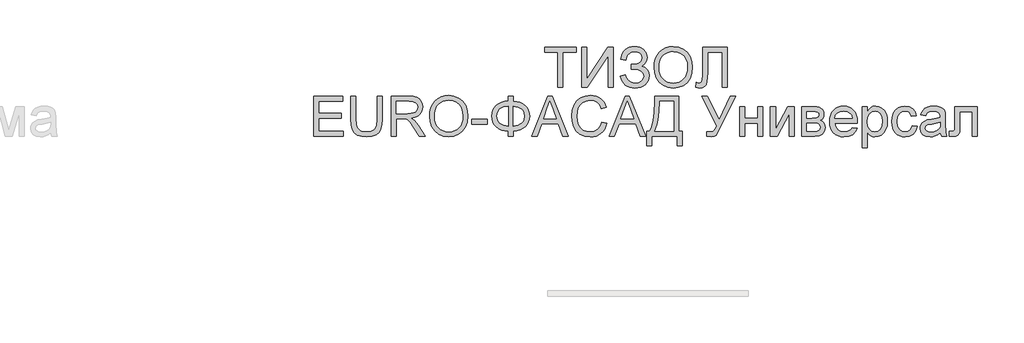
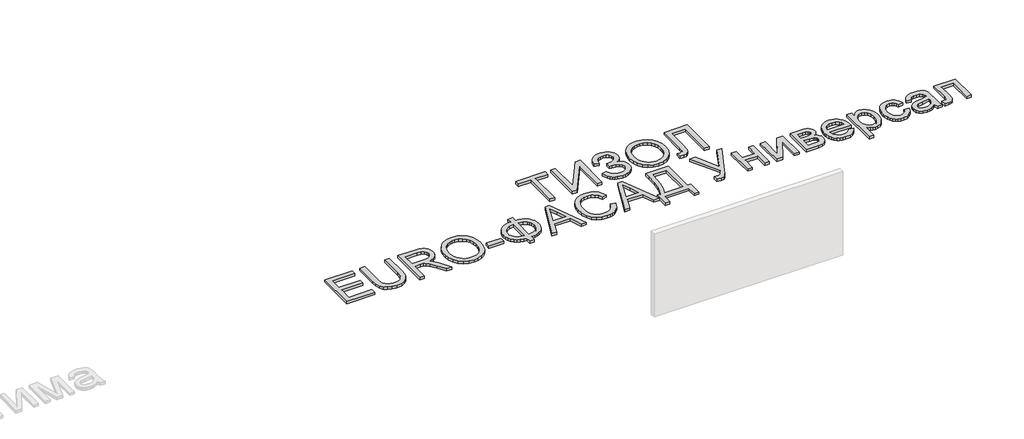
# One storey, part 35 of 35: 1 proxy.
"""IFC4 building model written with IfcOpenShell, lengths in millimetres."""

from ifc_helpers import new_model, si_unit, origin, origin_with_axes, place, context, project, spatial, polyline, outline, extrude, element, save

model = new_model("IFC4")

# Units and contexts
model_context = context("Model", 3, world=origin())
ifc_project = project(units=[si_unit("LENGTHUNIT", "METRE", prefix="MILLI")], contexts=[model_context])

# Site, building, storey
site = spatial("IfcSite", under=ifc_project)
building = spatial("IfcBuilding", under=site)
storey = spatial("IfcBuildingStorey", under=building, Name="Этаж 01", Elevation=0.0)

# Proxy
placement = place(None, origin())
element("IfcBuildingElementProxy", 1, Name="600 мм Arial", ObjectType="600 мм Arial", at=placement, inside=storey, context=model_context, shape_type="SweptSolid", body=[
    extrude(outline(polyline([(84112.8246338, 5315.0742808), (84112.8246338, 5578.7720949), (84013.9379535, 5578.7720949), (84013.9379535, 5616.4432112), (84249.3824304, 5616.4432112), (84249.3824304, 5578.7720949), (84150.4957501, 5578.7720949), (84150.4957501, 5315.0742808), (84112.8246338, 5315.0742808)])), origin_with_axes(), (0.0, 0.0, 1.0), 20.0),
    extrude(outline(polyline([(84291.7624363, 5616.4432112), (84329.4335526, 5616.4432112), (84329.4335526, 5377.7613727), (84487.1813521, 5616.4432112), (84527.2069132, 5616.4432112), (84527.2069132, 5315.0742808), (84489.5357969, 5315.0742808), (84489.5357969, 5553.0939316), (84332.1558793, 5315.0742808), (84291.7624363, 5315.0742808), (84291.7624363, 5616.4432112)])), origin_with_axes(), (0.0, 0.0, 1.0), 20.0),
    extrude(outline(polyline([(84579.0046981, 5399.8342925), (84616.6758144, 5409.2520715), (84624.6312626, 5388.8622119), (84639.8155919, 5368.4539583), (84661.6769795, 5353.1408702), (84689.6636023, 5348.0365075), (84718.018107, 5351.8716773), (84739.6587654, 5363.3771867), (84753.3715668, 5380.3089556), (84757.9425006, 5400.4229036), (84752.9485025, 5421.4933449), (84737.9665082, 5437.7629262), (84714.3760753, 5448.1647896), (84683.5567611, 5451.6320774), (84663.7647098, 5451.6320774), (84663.7647098, 5489.3031937), (84706.402233, 5492.3566142), (84720.2989754, 5497.7828737), (84732.4850665, 5507.9548108), (84740.9831406, 5521.3549125), (84743.8158319, 5536.4656655), (84740.0450415, 5554.2067747), (84728.7326701, 5569.4646804), (84710.9823639, 5579.9769084), (84687.8977687, 5583.4809844), (84667.0296625, 5580.7862488), (84649.4541002, 5572.702042), (84635.9896192, 5560.166463), (84627.4547569, 5544.117611), (84621.384704, 5517.5565309), (84583.7135876, 5526.97431), (84595.4168336, 5568.1770934), (84604.8311638, 5584.3639012), (84616.6206321, 5597.6076531), (84630.7852386, 5607.9083489), (84647.3249831, 5615.2659888), (84666.2398658, 5619.6805728), (84687.5298867, 5621.1521008), (84708.0416072, 5619.6230912), (84726.313846, 5615.0360626), (84742.3466032, 5607.3910149), (84756.1398788, 5596.6879481), (84767.2292217, 5583.9385377), (84775.1501809, 5570.1544592), (84779.9027564, 5555.3357126), (84781.4869483, 5539.4822978), (84779.0221389, 5519.6580568), (84771.6277108, 5502.1974576), (84759.3036639, 5487.1005002), (84742.0499984, 5474.3671847), (84763.000878, 5464.7194794), (84780.2361495, 5448.431504), (84791.76925, 5426.9012102), (84795.6136169, 5401.5265496), (84793.7696084, 5382.8956258), (84788.2375829, 5365.8511931), (84779.0175404, 5350.3932516), (84766.1094809, 5336.5218011), (84750.1571978, 5325.0783718), (84731.8044848, 5316.9044937), (84711.0513418, 5312.0001668), (84687.8977687, 5310.3653912), (84649.6932235, 5315.9571976), (84633.3362703, 5322.9469555), (84618.80953, 5332.7326165), (84606.1130026, 5345.3141808), (84595.2466882, 5360.6916482), (84579.0046981, 5399.8342925)])), origin_with_axes(), (0.0, 0.0, 1.0), 20.0),
    extrude(outline(polyline([(84833.2847332, 5461.7856204), (84835.7955278, 5497.1344817), (84843.3279116, 5528.4274439), (84855.8818847, 5555.6645071), (84873.457447, 5578.8456713), (84895.0015364, 5597.3547342), (84919.4610905, 5610.5754934), (84946.8361095, 5618.5079489), (84977.1265933, 5621.1521008), (85016.6555137, 5616.1856938), (85052.1009439, 5601.286473), (85081.5315035, 5577.502902), (85103.015812, 5545.8834445), (85116.1491993, 5507.9548108), (85120.526995, 5465.2437112), (85115.919273, 5421.9623945), (85102.096107, 5383.5003319), (85079.8208522, 5351.8256921), (85049.8568637, 5328.9066438), (85014.7149361, 5315.0007044), (84976.9058641, 5310.3653912), (84936.7699384, 5315.488148), (84901.1221731, 5330.8564184), (84871.7651899, 5355.0814477), (84850.5016105, 5386.7744816), (84837.5889525, 5423.2407844), (84833.2847332, 5461.7856204)]), holes=[polyline([(84870.9558495, 5461.4177384), (84872.8389454, 5436.4431495), (84878.4882333, 5414.2736608), (84887.9037131, 5394.9092722), (84901.0853849, 5378.3499839), (84917.108945, 5365.087838), (84935.0500901, 5355.6148766), (84954.90882, 5349.9310998), (84976.6851349, 5348.0365075), (84998.8339303, 5349.9494939), (85018.927185, 5355.688453), (85036.9648991, 5365.2533849), (85052.9470725, 5378.6442895), (85066.0321752, 5395.5530657), (85075.3786771, 5415.6716123), (85080.9865783, 5438.9999294), (85082.8558787, 5465.5380168), (85079.6553053, 5498.8865197), (85070.0535853, 5527.710074), (85054.2990388, 5551.2821128), (85032.6399864, 5568.8760692), (85006.5111677, 5579.8297556), (84977.3473225, 5583.4809844), (84956.327465, 5581.7220487), (84936.8251207, 5576.4452413), (84918.8402897, 5567.6505623), (84902.3729719, 5555.3380118), (84888.6279808, 5538.91438), (84878.8101301, 5517.7864572), (84872.9194196, 5491.9542433), (84870.9558495, 5461.4177384)])]), origin_with_axes(), (0.0, 0.0, 1.0), 20.0),
    extrude(outline(polyline([(85195.8692276, 5616.4432112), (85379.5159196, 5616.4432112), (85379.5159196, 5315.0742808), (85341.8448033, 5315.0742808), (85341.8448033, 5578.7720949), (85233.5403439, 5578.7720949), (85233.5403439, 5424.9974209), (85229.1625482, 5356.3874288), (85222.3843224, 5337.0000477), (85210.8052366, 5322.4687089), (85194.9495226, 5313.3912206), (85175.3414123, 5310.3653912), (85144.0714427, 5315.0742808), (85148.7803322, 5352.7453971), (85166.80655, 5348.0365075), (85179.5444641, 5350.5656963), (85188.6219523, 5358.1532624), (85194.0574088, 5375.1218194), (85195.8692276, 5405.7939808), (85195.8692276, 5616.4432112)])), origin_with_axes(), (0.0, 0.0, 1.0), 20.0),
    extrude(outline(polyline([(82285.775493, 4949.1498272), (82285.775493, 5250.5187577), (82502.3844117, 5250.5187577), (82502.3844117, 5212.8476414), (82323.4466093, 5212.8476414), (82323.4466093, 5123.3787401), (82492.9666327, 5123.3787401), (82492.9666327, 5085.7076238), (82323.4466093, 5085.7076238), (82323.4466093, 4986.8209435), (82507.0933013, 4986.8209435), (82507.0933013, 4949.1498272), (82285.775493, 4949.1498272)])), origin_with_axes(), (0.0, 0.0, 1.0), 20.0),
    extrude(outline(polyline([(82761.3733363, 5250.5187577), (82799.0444526, 5250.5187577), (82799.0444526, 5076.6577268), (82796.4876728, 5035.9423869), (82788.8173332, 5004.5896439), (82774.4883295, 4980.4014027), (82751.9555573, 4961.1795685), (82721.1638343, 4948.6255954), (82682.0579782, 4944.4409377), (82643.8074477, 4948.0829694), (82613.2272569, 4959.0090647), (82590.3082086, 4976.8421444), (82575.0411058, 5001.2051295), (82566.4602582, 5033.8822478), (82563.5999757, 5076.6577268), (82563.5999757, 5250.5187577), (82601.271092, 5250.5187577), (82601.271092, 5077.9821019), (82603.1288961, 5044.1277613), (82608.7023083, 5020.5557225), (82618.8006691, 5004.230959), (82634.2333188, 4992.1184443), (82654.3564639, 4984.6136516), (82678.526311, 4982.112054), (82716.8412208, 4987.0600668), (82731.1840201, 4993.2450829), (82742.317049, 5001.9041053), (82750.6541747, 5014.0809994), (82756.6092645, 5030.8196302), (82761.3733363, 5077.9821019), (82761.3733363, 5250.5187577)])), origin_with_axes(), (0.0, 0.0, 1.0), 20.0),
    extrude(outline(polyline([(82864.9689062, 4949.1498272), (82864.9689062, 5250.5187577), (82994.8312505, 5250.5187577), (83029.7340548, 5248.4862097), (83055.1271095, 5242.3885656), (83073.6867561, 5231.1313765), (83088.0893363, 5213.6201936), (83097.3323714, 5191.9059588), (83100.4133831, 5168.0396144), (83095.3090204, 5138.3515373), (83079.9959324, 5113.7402319), (83068.3961532, 5103.710849), (83054.0142665, 5095.69562), (83016.9041702, 5085.7076238), (83038.3149023, 5069.5943925), (83068.8491079, 5030.8196302), (83119.1017884, 4949.1498272), (83075.323831, 4949.1498272), (83036.1076103, 5011.61619), (83007.7806967, 5052.9661263), (82987.8782808, 5072.5006602), (82969.9624276, 5079.6743591), (82948.1102371, 5080.9987343), (82902.6400225, 5080.9987343), (82902.6400225, 4949.1498272), (82864.9689062, 4949.1498272)]), holes=[polyline([(82902.6400225, 5118.6698506), (82986.9585758, 5118.6698506), (83011.1744081, 5120.0034228), (83029.963981, 5124.0041395), (83044.1090437, 5130.9387151), (83054.3913455, 5141.0738641), (83060.6545365, 5153.3335316), (83062.7422668, 5166.6416628), (83058.7599442, 5185.0173684), (83046.8129764, 5199.8246187), (83026.2575699, 5209.5918857), (82996.4499313, 5212.8476414), (82902.6400225, 5212.8476414), (82902.6400225, 5118.6698506)])]), origin_with_axes(), (0.0, 0.0, 1.0), 20.0),
    extrude(outline(polyline([(83152.211168, 5095.8611669), (83154.7219626, 5131.2100281), (83162.2543465, 5162.5029903), (83174.8083196, 5189.7400536), (83192.3838819, 5212.9212178), (83213.9279712, 5231.4302807), (83238.3875254, 5244.6510399), (83265.7625443, 5252.5834954), (83296.0530281, 5255.2276472), (83335.5819485, 5250.2612403), (83371.0273787, 5235.3620195), (83400.4579384, 5211.5784485), (83421.9422469, 5179.958991), (83435.0756341, 5142.0303573), (83439.4534298, 5099.3192577), (83434.8457079, 5056.0379409), (83421.0225419, 5017.5758783), (83398.7472871, 4985.9012385), (83368.7832986, 4962.9821902), (83333.641371, 4949.0762508), (83295.8322989, 4944.4409377), (83255.6963733, 4949.5636945), (83220.0486079, 4964.9319648), (83190.6916247, 4989.1569942), (83169.4280454, 5020.8500281), (83156.5153874, 5057.3163309), (83152.211168, 5095.8611669)]), holes=[polyline([(83189.8822843, 5095.4932849), (83191.7653803, 5070.518696), (83197.4146682, 5048.3492072), (83206.830148, 5028.9848187), (83220.0118197, 5012.4255304), (83236.0353799, 4999.1633845), (83253.9765249, 4989.6904231), (83273.8352549, 4984.0066463), (83295.6115697, 4982.112054), (83317.7603651, 4984.0250404), (83337.8536198, 4989.7639995), (83355.8913339, 4999.3289314), (83371.8735073, 5012.719836), (83384.95861, 5029.6286122), (83394.305112, 5049.7471588), (83399.9130132, 5073.0754758), (83401.7823135, 5099.6135633), (83398.5817402, 5132.9620661), (83388.9800201, 5161.7856204), (83373.2254737, 5185.3576593), (83351.5664212, 5202.9516157), (83325.4376025, 5213.9053021), (83296.2737573, 5217.5565309), (83275.2538998, 5215.7975951), (83255.7515556, 5210.5207878), (83237.7667245, 5201.7261088), (83221.2994067, 5189.4135583), (83207.5544157, 5172.9899265), (83197.7365649, 5151.8620036), (83191.8458545, 5126.0297898), (83189.8822843, 5095.4932849)])]), origin_with_axes(), (0.0, 0.0, 1.0), 20.0),
    extrude(outline(polyline([(83467.7067671, 5038.6187285), (83467.7067671, 5076.2898448), (83585.4290055, 5076.2898448), (83585.4290055, 5038.6187285), (83467.7067671, 5038.6187285)])), origin_with_axes(), (0.0, 0.0, 1.0), 20.0),
    extrude(outline(polyline([(83740.8223603, 5212.8476414), (83740.8223603, 5250.5187577), (83778.4934766, 5250.5187577), (83778.4934766, 5212.8476414), (83805.3649571, 5209.5275064), (83829.2519949, 5202.6573101), (83850.15459, 5192.2370526), (83868.0727424, 5178.2667338), (83882.4454321, 5161.5602927), (83892.7116391, 5142.9316682), (83898.8713632, 5122.3808602), (83900.9246046, 5099.9078689), (83898.9357426, 5077.8855329), (83892.9691565, 5057.5830453), (83883.0248463, 5039.000406), (83869.102812, 5022.1376151), (83851.5065563, 5007.928173), (83830.5395819, 4997.3055804), (83806.2018886, 4990.2698372), (83778.4934766, 4986.8209435), (83778.4934766, 4949.1498272), (83740.8223603, 4949.1498272), (83740.8223603, 4986.8209435), (83715.6546333, 4989.628343), (83692.6850012, 4995.9904023), (83671.9134641, 5005.9071213), (83653.3400218, 5019.3785001), (83638.0499264, 5035.8481172), (83627.1284297, 5054.759551), (83620.5755316, 5076.1128016), (83618.3912323, 5099.9078689), (83620.5686339, 5123.8110015), (83627.1008385, 5145.1941425), (83637.9878463, 5164.0572918), (83653.2296572, 5180.4004494), (83671.7686105, 5193.7407702), (83692.5470455, 5203.5954092), (83715.5649621, 5209.9643662), (83740.8223603, 5212.8476414)]), holes=[polyline([(83740.8223603, 5175.1765251), (83706.5449554, 5169.1432603), (83679.4964317, 5154.1336749), (83669.2440203, 5143.4283089), (83661.9208694, 5130.8099564), (83657.5269788, 5116.2786176), (83656.0623486, 5099.8342925), (83657.5085847, 5083.5394193), (83661.847293, 5069.0885547), (83669.0784734, 5056.4816986), (83679.2021261, 5045.718851), (83706.1770734, 5030.5713098), (83740.8223603, 5024.4920598), (83740.8223603, 5175.1765251)]), polyline([(83778.4934766, 5175.1765251), (83778.4934766, 5024.4920598), (83813.7365717, 5030.7184626), (83840.5919574, 5045.8660038), (83850.5063772, 5056.5920632), (83857.5881056, 5069.1621311), (83863.2534883, 5099.8342925), (83857.6892731, 5130.0925866), (83850.7340041, 5142.5867788), (83840.9966276, 5153.3243346), (83814.2424095, 5168.6466197), (83778.4934766, 5175.1765251)])]), origin_with_axes(), (0.0, 0.0, 1.0), 20.0),
    extrude(outline(polyline([(83917.6264472, 4949.1498272), (84037.9238596, 5250.5187577), (84070.0031696, 5250.5187577), (84190.300582, 4949.1498272), (84150.4957501, 4949.1498272), (84115.988419, 5043.327618), (83991.8650338, 5043.327618), (83957.4312791, 4949.1498272), (83917.6264472, 4949.1498272)]), holes=[polyline([(84005.6973968, 5080.9987343), (84102.2296324, 5080.9987343), (84075.0799411, 5155.0901681), (84053.9635146, 5212.8476414), (84035.2015328, 5161.5648912), (84005.6973968, 5080.9987343)])]), origin_with_axes(), (0.0, 0.0, 1.0), 20.0),
    extrude(outline(polyline([(84442.4469015, 5056.2770642), (84480.1180178, 5046.5649796), (84472.6638089, 5023.1377942), (84462.7355935, 5002.6674605), (84450.3333718, 4985.1539782), (84435.4571436, 4970.5973475), (84418.4426013, 4959.1539182), (84399.6254373, 4950.9800402), (84379.0056514, 4946.0757133), (84356.5832438, 4944.4409377), (84312.8880598, 4949.3889505), (84278.1875907, 4964.232989), (84251.5897224, 4988.4580184), (84232.2023413, 5021.5490039), (84220.3657381, 5060.4525249), (84216.4202037, 5102.1151608), (84220.8807729, 5146.0586651), (84234.2624804, 5184.005693), (84255.8663506, 5214.7514307), (84284.9934076, 5237.0910649), (84319.5375269, 5250.6935016), (84357.3925842, 5255.2276472), (84398.6965352, 5249.3599294), (84416.6652714, 5242.0252821), (84432.8451814, 5231.7567759), (84446.9695508, 5218.8257238), (84458.771665, 5203.5034387), (84475.4091283, 5165.6851696), (84437.738012, 5156.7088489), (84424.6782011, 5184.1804369), (84406.8359244, 5203.0251921), (84383.9904525, 5213.9236962), (84355.9210562, 5217.5565309), (84323.5658348, 5213.5282231), (84296.9863606, 5201.4432995), (84276.8172302, 5182.5709532), (84263.69304, 5158.1803769), (84256.49175, 5130.6076214), (84254.09132, 5102.1887372), (84256.9332084, 5067.3871005), (84265.4588736, 5037.2943533), (84279.9902124, 5013.0601268), (84300.8491216, 4995.8340524), (84325.8559002, 4985.5425536), (84352.8308475, 4982.112054), (84384.275561, 4986.7841553), (84410.4779561, 5000.8004594), (84430.2608104, 5024.0138132), (84442.4469015, 5056.2770642)])), origin_with_axes(), (0.0, 0.0, 1.0), 20.0),
    extrude(outline(polyline([(84496.8198604, 4949.1498272), (84617.1172728, 5250.5187577), (84649.1965828, 5250.5187577), (84769.4939952, 4949.1498272), (84729.6891633, 4949.1498272), (84695.1818322, 5043.327618), (84571.058447, 5043.327618), (84536.6246923, 4949.1498272), (84496.8198604, 4949.1498272)]), holes=[polyline([(84584.89081, 5080.9987343), (84681.4230456, 5080.9987343), (84654.2733543, 5155.0901681), (84633.1569278, 5212.8476414), (84614.394946, 5161.5648912), (84584.89081, 5080.9987343)])]), origin_with_axes(), (0.0, 0.0, 1.0), 20.0),
    extrude(outline(polyline([(84837.9936227, 5250.5187577), (85016.9314252, 5250.5187577), (85016.9314252, 4986.8209435), (85045.1847624, 4986.8209435), (85045.1847624, 4878.5164842), (85007.5136461, 4878.5164842), (85007.5136461, 4949.1498272), (84814.449175, 4949.1498272), (84814.449175, 4878.5164842), (84776.7780587, 4878.5164842), (84776.7780587, 4986.8209435), (84800.3225064, 4986.8209435), (84816.8036198, 5020.9925824), (84828.5758436, 5069.0609636), (84835.6391779, 5131.0260871), (84837.9936227, 5206.8879531), (84837.9936227, 5250.5187577)]), holes=[polyline([(84979.2603089, 5212.8476414), (84875.664739, 5212.8476414), (84875.664739, 5197.6909032), (84868.0127935, 5094.4632153), (84856.6820281, 5034.8111498), (84837.9936227, 4986.8209435), (84979.2603089, 4986.8209435), (84979.2603089, 5212.8476414)])]), origin_with_axes(), (0.0, 0.0, 1.0), 20.0),
    extrude(outline(polyline([(85188.8058933, 5250.5187577), (85230.5237116, 5250.5187577), (85320.6548004, 5072.0224136), (85401.7359921, 5250.5187577), (85443.0859284, 5250.5187577), (85328.6746279, 5015.7364684), (85311.4025682, 4979.2793626), (85297.5518111, 4958.0525715), (85282.781349, 4947.8438461), (85262.7501743, 4944.4409377), (85228.8314544, 4949.1498272), (85228.8314544, 4982.112054), (85258.4827432, 4982.112054), (85270.3469375, 4984.2089814), (85280.4820865, 4990.4997635), (85290.2125653, 5004.240156), (85300.862749, 5028.6859146), (85188.8058933, 5250.5187577)])), origin_with_axes(), (0.0, 0.0, 1.0), 20.0),
    extrude(outline(polyline([(85473.6937104, 5170.4676355), (85511.3648267, 5170.4676355), (85511.3648267, 5085.7076238), (85610.251507, 5085.7076238), (85610.251507, 5170.4676355), (85647.9226233, 5170.4676355), (85647.9226233, 4949.1498272), (85610.251507, 4949.1498272), (85610.251507, 5048.0365075), (85511.3648267, 5048.0365075), (85511.3648267, 4949.1498272), (85473.6937104, 4949.1498272), (85473.6937104, 5170.4676355)])), origin_with_axes(), (0.0, 0.0, 1.0), 20.0),
    extrude(outline(polyline([(85704.4292978, 5170.4676355), (85742.1004141, 5170.4676355), (85742.1004141, 5001.6833761), (85834.659524, 5170.4676355), (85883.3671002, 5170.4676355), (85883.3671002, 4949.1498272), (85845.6959839, 4949.1498272), (85845.6959839, 5116.904017), (85753.7254851, 4949.1498272), (85704.4292978, 4949.1498272), (85704.4292978, 5170.4676355)])), origin_with_axes(), (0.0, 0.0, 1.0), 20.0),
    extrude(outline(polyline([(85939.8737747, 5170.4676355), (86022.8679528, 5170.4676355), (86049.5485945, 5169.2076397), (86068.3749556, 5165.4276522), (86082.2257127, 5158.2907415), (86093.9795424, 5146.959976), (86102.008567, 5132.198711), (86104.6849085, 5114.7703015), (86103.0662277, 5100.7264063), (86098.2101854, 5088.6138916), (86090.0983874, 5078.3775751), (86078.7124396, 5069.9622744), (86092.6551673, 5062.135585), (86104.0227209, 5049.5448237), (86111.5826959, 5033.183272), (86114.1026876, 5014.0442112), (86107.719935, 4985.3310215), (86092.5448027, 4965.1159058), (86068.5221084, 4953.1413469), (86035.5966698, 4949.1498272), (85939.8737747, 4949.1498272), (85939.8737747, 5170.4676355)]), holes=[polyline([(85977.544891, 5085.7076238), (86014.7745489, 5085.7076238), (86045.4926955, 5087.6206102), (86060.4287045, 5095.2725557), (86065.3675203, 5101.600126), (86067.0137922, 5109.1049187), (86064.1259185, 5120.3437137), (86055.4622975, 5127.5725949), (86039.8089187, 5131.4905381), (86015.9517713, 5132.7965192), (85977.544891, 5132.7965192), (85977.544891, 5085.7076238)]), polyline([(85977.544891, 4986.8209435), (86023.7508696, 4986.8209435), (86048.9323921, 4988.5223978), (86064.7329238, 4993.6267604), (86073.2126038, 5002.9065838), (86076.4315713, 5017.1344199), (86074.8220875, 5026.5613961), (86069.9936364, 5035.2710023), (86062.5808142, 5042.0860163), (86053.2182174, 5045.8292156), (86020.0720496, 5048.0365075), (85977.544891, 5048.0365075), (85977.544891, 4986.8209435)])]), origin_with_axes(), (0.0, 0.0, 1.0), 20.0),
    extrude(outline(polyline([(86316.1434793, 5015.0742808), (86353.0788316, 5010.3653912), (86339.7707005, 4982.5351183), (86318.5347123, 4961.7313915), (86289.8491137, 4948.7635511), (86254.1921513, 4944.4409377), (86230.8178491, 4946.3056396), (86209.9911296, 4951.8997451), (86191.711993, 4961.2232545), (86175.9804392, 4974.2761675), (86163.3298971, 4990.6952008), (86154.2937956, 5010.1170709), (86148.8721346, 5032.5417777), (86147.0649143, 5057.9693214), (86148.8905287, 5084.2590885), (86154.367372, 5107.4310557), (86163.495444, 5127.4852229), (86176.2747448, 5144.4215903), (86191.9649119, 5157.8768742), (86209.8255827, 5167.4877914), (86229.8567574, 5173.2543416), (86252.0584358, 5175.1765251), (86273.5450436, 5173.2589402), (86292.9761107, 5167.5061855), (86310.3516372, 5157.918261), (86325.671623, 5144.4951667), (86338.1773116, 5127.5955875), (86347.1099463, 5107.5782085), (86352.4695271, 5084.4430295), (86354.256054, 5058.1900506), (86354.0353248, 5048.0365075), (86184.7360307, 5048.0365075), (86191.256739, 5019.8383526), (86206.4042802, 4999.1082022), (86228.2656677, 4986.361091), (86254.9279153, 4982.112054), (86274.9774841, 4984.0802227), (86291.8632677, 4989.9847287), (86305.5852661, 5000.1934541), (86316.1434793, 5015.0742808)]), holes=[polyline([(86184.7360307, 5085.7076238), (86316.5849377, 5085.7076238), (86311.4897721, 5105.6100398), (86301.5017759, 5119.847073), (86279.5392208, 5133.0908248), (86251.911283, 5137.5054088), (86226.5182283, 5133.9829387), (86205.5213634, 5123.4155283), (86190.9256452, 5106.943612), (86184.7360307, 5085.7076238)])]), origin_with_axes(), (0.0, 0.0, 1.0), 20.0),
    extrude(outline(polyline([(86391.9271703, 4864.3898155), (86391.9271703, 5170.4676355), (86429.5982866, 5170.4676355), (86429.5982866, 5133.5322832), (86441.8855453, 5151.751639), (86455.6443319, 5164.7654646), (86471.6839869, 5172.57376), (86490.8138506, 5175.1765251), (86516.2896788, 5171.5344933), (86538.5649336, 5160.6083981), (86556.701516, 5143.0604269), (86569.7613268, 5119.5527674), (86577.6523956, 5091.7960709), (86580.2827519, 5061.5009886), (86577.3121048, 5029.2837228), (86568.4001634, 5000.4693656), (86553.8320364, 4976.5202477), (86533.8928323, 4958.8987001), (86510.6702813, 4948.0553783), (86486.2521139, 4944.4409377), (86468.934069, 4946.8597618), (86453.4738281, 4954.1162342), (86440.2392734, 4965.0699206), (86429.5982866, 4978.5803868), (86429.5982866, 4864.3898155), (86391.9271703, 4864.3898155)]), holes=[polyline([(86429.5982866, 5058.0428978), (86433.6725797, 5024.2713306), (86445.895459, 5000.6533066), (86463.9308738, 4986.7473671), (86485.4427735, 4982.112054), (86507.3041611, 4986.912914), (86525.7994284, 5001.3154941), (86538.4085838, 5025.7980409), (86542.6116356, 5060.838801), (86538.5097513, 5094.4264271), (86526.2040986, 5118.375545), (86508.1962749, 5132.7229428), (86486.9878779, 5137.5054088), (86465.6967074, 5132.4194402), (86446.999105, 5117.1615344), (86433.9484912, 5092.2099381), (86429.5982866, 5058.0428978)])]), origin_with_axes(), (0.0, 0.0, 1.0), 20.0),
    extrude(outline(polyline([(86763.9294439, 5029.2009494), (86801.6005602, 5024.4920598), (86791.0975292, 4990.9872071), (86771.3606602, 4965.6677288), (86744.2477571, 4949.7476355), (86711.6166241, 4944.4409377), (86690.4887013, 4946.291844), (86671.5450778, 4951.8445628), (86654.7857537, 4961.0990943), (86640.2107289, 4974.0554383), (86628.4132132, 4990.4698731), (86619.9864162, 5010.0986768), (86614.930338, 5032.9418494), (86613.2449786, 5058.999391), (86616.1236552, 5092.5226378), (86624.7596851, 5121.5761184), (86639.2910239, 5145.0377926), (86659.8556274, 5161.7856204), (86684.4577359, 5171.8287989), (86711.1015894, 5175.1765251), (86742.932579, 5170.5780001), (86768.380816, 5156.7824253), (86786.63696, 5134.5255646), (86796.8916706, 5104.543182), (86759.2205543, 5099.8342925), (86752.3871463, 5116.2694206), (86741.7461596, 5128.0508415), (86727.8862054, 5135.1417669), (86711.3958949, 5137.5054088), (86687.0513039, 5132.8517015), (86667.7283021, 5118.8905798), (86655.1191467, 5094.8678855), (86650.9160949, 5060.0294606), (86655.0271762, 5024.7219861), (86667.3604201, 5000.6165184), (86686.333934, 4986.7381701), (86710.3658254, 4982.112054), (86729.8727682, 4984.9999277), (86745.8664379, 4993.6635486), (86757.500706, 5008.3236462), (86763.9294439, 5029.2009494)])), origin_with_axes(), (0.0, 0.0, 1.0), 20.0),
    extrude(outline(polyline([(86975.8294731, 4977.4031645), (86957.8308465, 4961.9705148), (86939.298791, 4951.872154), (86919.8102423, 4946.2987418), (86898.9421361, 4944.4409377), (86867.4606344, 4948.9107039), (86844.2380834, 4962.3200027), (86829.9182767, 4982.6822711), (86825.1450079, 5008.0109465), (86826.9476296, 5023.6275372), (86832.355495, 5037.8093881), (86840.6972192, 5049.9494939), (86851.3014177, 5059.4408494), (86877.6785568, 5071.8016844), (86910.2729015, 5077.4670671), (86948.7901464, 5083.4267555), (86975.6087439, 5090.4165134), (86975.8294731, 5098.8042229), (86973.235905, 5115.61643), (86965.4552008, 5126.6161017), (86948.0543824, 5134.783082), (86923.810959, 5137.5054088), (86901.3701573, 5135.6935899), (86885.6983843, 5130.2581335), (86875.0114123, 5120.2057579), (86867.5250137, 5104.543182), (86829.8538974, 5109.2520715), (86836.3929999, 5129.8534633), (86846.1510698, 5146.040271), (86860.0386151, 5158.4195002), (86878.9661438, 5167.598156), (86902.1151183, 5173.2819328), (86928.6670013, 5175.1765251), (86954.1336324, 5173.502662), (86974.3211569, 5168.4810728), (86989.5422745, 5160.9302948), (87000.1096848, 5151.6688656), (87007.1178368, 5140.2185385), (87011.6611794, 5126.1010669), (87013.5005894, 5093.1388401), (87013.5005894, 5046.270674), (87015.4135758, 4980.824467), (87022.9183685, 4949.1498272), (86985.2472522, 4949.1498272), (86975.8294731, 4977.4031645)]), holes=[polyline([(86975.8294731, 5052.7453971), (86915.0553675, 5041.1939024), (86882.6449637, 5035.0870613), (86867.9664721, 5025.1542474), (86862.8161242, 5010.6596968), (86865.6212244, 4999.4576901), (86874.036525, 4990.2790343), (86887.8780851, 4984.1537991), (86906.9619636, 4982.112054), (86927.1954733, 4984.3653312), (86945.0745383, 4991.1251629), (86959.5690889, 5001.0855679), (86969.6490556, 5012.9405652), (86974.1188218, 5025.1542474), (86975.6087439, 5042.0768192), (86975.8294731, 5052.7453971)])]), origin_with_axes(), (0.0, 0.0, 1.0), 20.0),
    extrude(outline(polyline([(87084.1339325, 5170.4676355), (87253.6539558, 5170.4676355), (87253.6539558, 4949.3705564), (87215.9828395, 4949.3705564), (87215.9828395, 5132.7965192), (87121.8050488, 5132.7965192), (87121.8050488, 5027.2143866), (87119.266663, 4978.5068104), (87114.5117882, 4967.4795476), (87105.3239354, 4957.9422069), (87091.3812078, 4951.3479222), (87072.3617086, 4949.1498272), (87041.7539266, 4951.0628136), (87041.7539266, 4986.8209435), (87058.602922, 4986.8209435), (87075.6358584, 4989.1386001), (87082.4416753, 4996.49624), (87084.1339325, 5029.3481022), (87084.1339325, 5170.4676355)])), origin_with_axes(), (0.0, 0.0, 1.0), 20.0),
])

save(model, "model.ifc")
